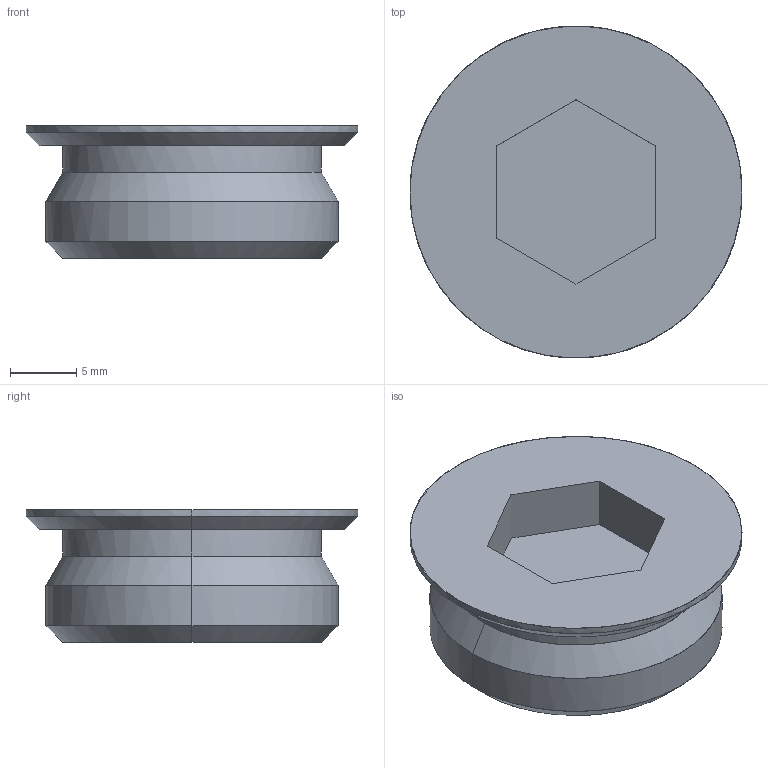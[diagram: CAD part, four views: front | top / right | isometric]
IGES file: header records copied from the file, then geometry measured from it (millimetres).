
Global section: file name: E:\UnigraphicsGraphicData\MISUMI_PRESS-PARTS\IGES\3d_mswzs22-10_00493_r00.igs; native system: NX V5.0; preprocessor: UGS NX IGES V5.0; author: MISUMI; date: 20110105.161530; units: millimetre
Bounding box: 25 x 25 x 10 mm (x, y, z)
Surface area: 1835.6 mm2 (no closed solid volume)
Topology: 0 solids, 0 shells, 22 faces, 116 edges, 116 vertices
Faces by surface type: bspline 22
